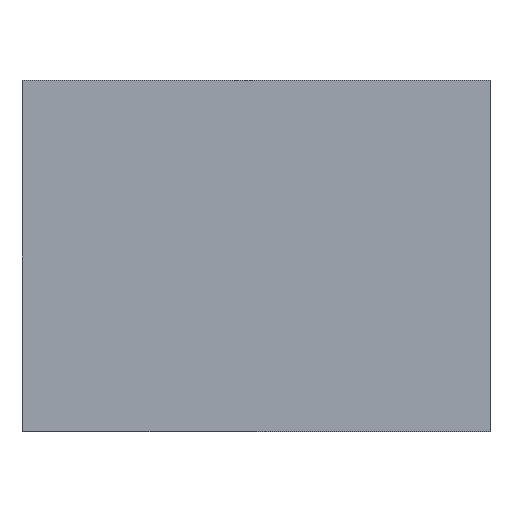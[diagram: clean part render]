
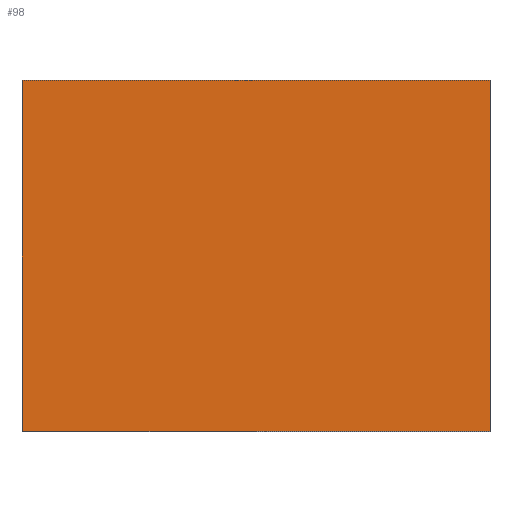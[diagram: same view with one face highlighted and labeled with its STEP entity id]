
A CAD part, top view. The second image highlights one B-rep face of the part: STEP entity #98.
In plain terms, the highlighted planar face has unit normal (0, 0, 1).
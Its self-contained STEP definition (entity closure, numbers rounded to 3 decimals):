
#6 = EDGE_CURVE ( 'NONE', #93, #86, #14, .T. ) ;
#14 = LINE ( 'NONE', #36, #42 ) ;
#17 = DIRECTION ( 'NONE',  ( -1., 0., 0. ) ) ;
#19 = CARTESIAN_POINT ( 'NONE',  ( -200., -150., 2. ) ) ;
#20 = DIRECTION ( 'NONE',  ( 0., 0., 1. ) ) ;
#36 = CARTESIAN_POINT ( 'NONE',  ( -200., -150., 2. ) ) ;
#37 = CARTESIAN_POINT ( 'NONE',  ( 0., 0., 2. ) ) ;
#42 = VECTOR ( 'NONE', #91, 1000. ) ;
#47 = EDGE_CURVE ( 'NONE', #144, #213, #179, .T. ) ;
#52 = ORIENTED_EDGE ( 'NONE', *, *, #134, .T. ) ;
#57 = CARTESIAN_POINT ( 'NONE',  ( 200., -150., 2. ) ) ;
#58 = VECTOR ( 'NONE', #203, 1000. ) ;
#62 = DIRECTION ( 'NONE',  ( 0., 1., 0. ) ) ;
#74 = ORIENTED_EDGE ( 'NONE', *, *, #47, .T. ) ;
#75 = CARTESIAN_POINT ( 'NONE',  ( 200., 150., 2. ) ) ;
#86 = VERTEX_POINT ( 'NONE', #57 ) ;
#91 = DIRECTION ( 'NONE',  ( 1., 0., 0. ) ) ;
#93 = VERTEX_POINT ( 'NONE', #19 ) ;
#98 = ADVANCED_FACE ( 'NONE', ( #183 ), #109, .T. ) ;
#109 = PLANE ( 'NONE',  #191 ) ;
#124 = CARTESIAN_POINT ( 'NONE',  ( -200., 150., 2. ) ) ;
#134 = EDGE_CURVE ( 'NONE', #86, #144, #149, .T. ) ;
#138 = ORIENTED_EDGE ( 'NONE', *, *, #6, .T. ) ;
#144 = VERTEX_POINT ( 'NONE', #218 ) ;
#149 = LINE ( 'NONE', #75, #222 ) ;
#158 = DIRECTION ( 'NONE',  ( 1., 0., 0. ) ) ;
#178 = ORIENTED_EDGE ( 'NONE', *, *, #205, .T. ) ;
#179 = LINE ( 'NONE', #196, #228 ) ;
#183 = FACE_OUTER_BOUND ( 'NONE', #198, .T. ) ;
#191 = AXIS2_PLACEMENT_3D ( 'NONE', #37, #20, #158 ) ;
#196 = CARTESIAN_POINT ( 'NONE',  ( -200., 150., 2. ) ) ;
#198 = EDGE_LOOP ( 'NONE', ( #178, #138, #52, #74 ) ) ;
#199 = CARTESIAN_POINT ( 'NONE',  ( -200., 150., 2. ) ) ;
#202 = LINE ( 'NONE', #124, #58 ) ;
#203 = DIRECTION ( 'NONE',  ( 0., -1., 0. ) ) ;
#205 = EDGE_CURVE ( 'NONE', #213, #93, #202, .T. ) ;
#213 = VERTEX_POINT ( 'NONE', #199 ) ;
#218 = CARTESIAN_POINT ( 'NONE',  ( 200., 150., 2. ) ) ;
#222 = VECTOR ( 'NONE', #62, 1000. ) ;
#228 = VECTOR ( 'NONE', #17, 1000. ) ;
